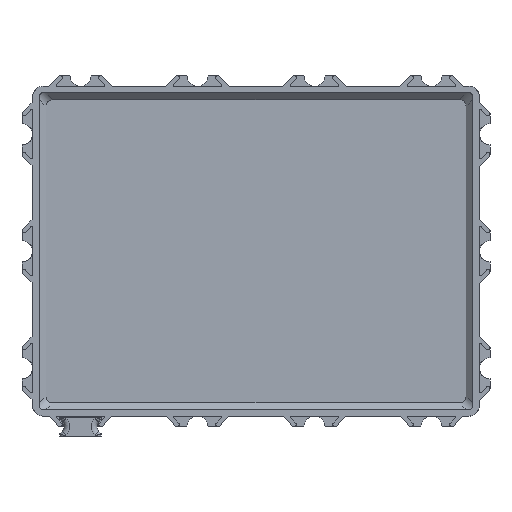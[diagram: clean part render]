
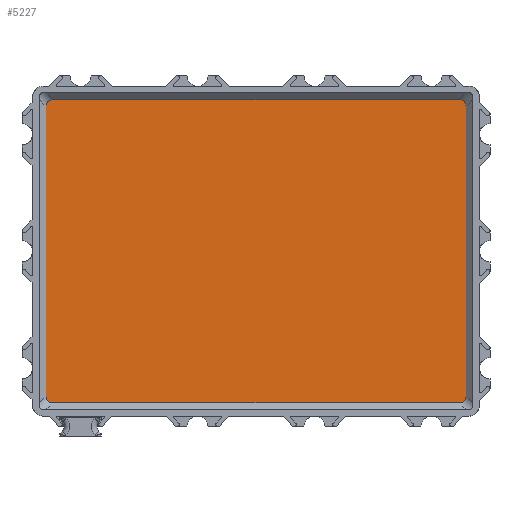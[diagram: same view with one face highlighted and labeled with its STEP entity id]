
A CAD part, top view. The second image highlights one B-rep face of the part: STEP entity #5227.
In plain terms, the highlighted planar face has unit normal (0, 0, 1).
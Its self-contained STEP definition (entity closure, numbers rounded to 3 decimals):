
#428=LINE('',#8648,#892);
#434=LINE('',#8681,#898);
#445=LINE('',#8740,#909);
#447=LINE('',#8743,#911);
#892=VECTOR('',#7107,10.);
#898=VECTOR('',#7127,10.);
#909=VECTOR('',#7164,10.);
#911=VECTOR('',#7168,10.);
#1084=PLANE('',#5752);
#1319=FACE_OUTER_BOUND('',#1583,.T.);
#1583=EDGE_LOOP('',(#4412,#4413,#4414,#4415,#4416,#4417,#4418,#4419));
#1690=ELLIPSE('',#5726,3.118,1.8);
#1694=ELLIPSE('',#5734,3.118,1.8);
#1697=ELLIPSE('',#5742,3.118,1.8);
#1699=ELLIPSE('',#5746,3.118,1.8);
#2318=VERTEX_POINT('',#8618);
#2319=VERTEX_POINT('',#8619);
#2324=VERTEX_POINT('',#8647);
#2327=VERTEX_POINT('',#8657);
#2330=VERTEX_POINT('',#8680);
#2334=VERTEX_POINT('',#8707);
#2338=VERTEX_POINT('',#8728);
#2339=VERTEX_POINT('',#8729);
#3010=EDGE_CURVE('',#2318,#2319,#1690,.T.);
#3018=EDGE_CURVE('',#2324,#2318,#428,.T.);
#3023=EDGE_CURVE('',#2327,#2324,#1694,.T.);
#3028=EDGE_CURVE('',#2330,#2327,#434,.T.);
#3035=EDGE_CURVE('',#2334,#2330,#1697,.T.);
#3041=EDGE_CURVE('',#2338,#2339,#1699,.T.);
#3047=EDGE_CURVE('',#2339,#2334,#445,.T.);
#3049=EDGE_CURVE('',#2319,#2338,#447,.T.);
#4412=ORIENTED_EDGE('',*,*,#3010,.T.);
#4413=ORIENTED_EDGE('',*,*,#3049,.T.);
#4414=ORIENTED_EDGE('',*,*,#3041,.T.);
#4415=ORIENTED_EDGE('',*,*,#3047,.T.);
#4416=ORIENTED_EDGE('',*,*,#3035,.T.);
#4417=ORIENTED_EDGE('',*,*,#3028,.T.);
#4418=ORIENTED_EDGE('',*,*,#3023,.T.);
#4419=ORIENTED_EDGE('',*,*,#3018,.T.);
#5227=ADVANCED_FACE('',(#1319),#1084,.F.);
#5726=AXIS2_PLACEMENT_3D('',#8620,#7093,#7094);
#5734=AXIS2_PLACEMENT_3D('',#8658,#7117,#7118);
#5742=AXIS2_PLACEMENT_3D('',#8708,#7140,#7141);
#5746=AXIS2_PLACEMENT_3D('',#8730,#7151,#7152);
#5752=AXIS2_PLACEMENT_3D('',#8744,#7169,#7170);
#7093=DIRECTION('center_axis',(0.,0.,1.));
#7094=DIRECTION('ref_axis',(-0.707,0.707,0.));
#7107=DIRECTION('',(-1.,0.,0.));
#7117=DIRECTION('center_axis',(0.,0.,1.));
#7118=DIRECTION('ref_axis',(0.707,0.707,0.));
#7127=DIRECTION('',(0.,1.,0.));
#7140=DIRECTION('center_axis',(0.,0.,1.));
#7141=DIRECTION('ref_axis',(0.707,-0.707,0.));
#7151=DIRECTION('center_axis',(0.,0.,1.));
#7152=DIRECTION('ref_axis',(-0.707,-0.707,0.));
#7164=DIRECTION('',(1.,0.,0.));
#7168=DIRECTION('',(0.,-1.,0.));
#7169=DIRECTION('center_axis',(0.,0.,-1.));
#7170=DIRECTION('ref_axis',(-1.,0.,0.));
#8618=CARTESIAN_POINT('',(5.77,61.503,-10.));
#8619=CARTESIAN_POINT('',(4.497,60.23,-10.));
#8620=CARTESIAN_POINT('Origin',(7.043,58.957,-10.));
#8647=CARTESIAN_POINT('',(82.23,61.503,-10.));
#8648=CARTESIAN_POINT('',(33.5,61.503,-10.));
#8657=CARTESIAN_POINT('',(83.503,60.23,-10.));
#8658=CARTESIAN_POINT('Origin',(80.957,58.957,-10.));
#8680=CARTESIAN_POINT('',(83.503,5.77,-10.));
#8681=CARTESIAN_POINT('',(83.503,40.75,-10.));
#8707=CARTESIAN_POINT('',(82.23,4.497,-10.));
#8708=CARTESIAN_POINT('Origin',(80.957,7.043,-10.));
#8728=CARTESIAN_POINT('',(4.497,5.77,-10.));
#8729=CARTESIAN_POINT('',(5.77,4.497,-10.));
#8730=CARTESIAN_POINT('Origin',(7.043,7.043,-10.));
#8740=CARTESIAN_POINT('',(54.5,4.497,-10.));
#8743=CARTESIAN_POINT('',(4.497,25.25,-10.));
#8744=CARTESIAN_POINT('Origin',(44.,33.,-10.));
